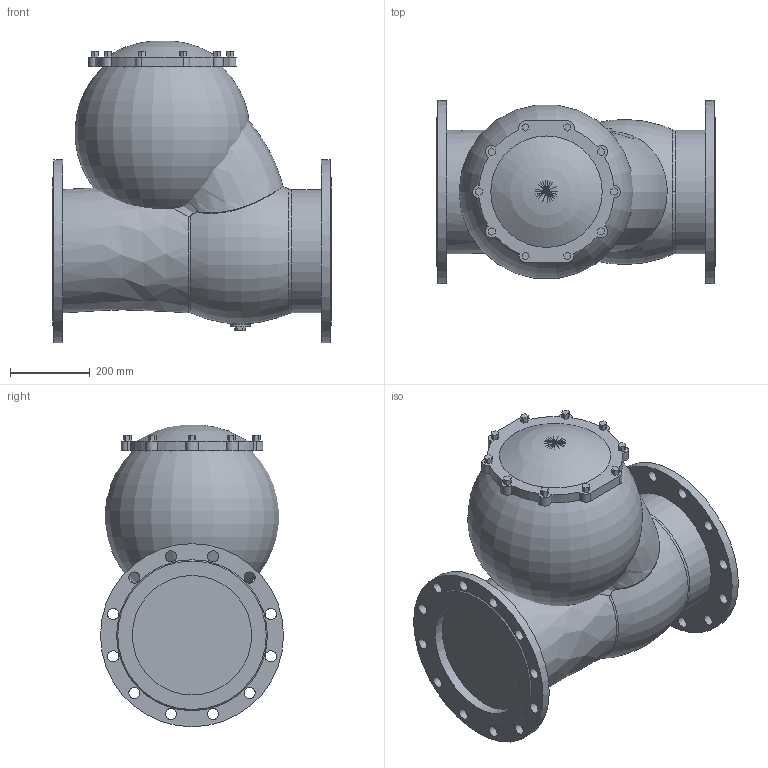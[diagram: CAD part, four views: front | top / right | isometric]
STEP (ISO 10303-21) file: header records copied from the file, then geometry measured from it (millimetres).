
FILE_DESCRIPTION(('STEP AP203'), '1');
FILE_NAME('抔黽鳧 012F.M DN300_PN16', '', ('UNSPECIFIED'), ('UNSPECIFIED'), 'ASCON STEP Converter 1.6', 'ASCON Math Kernel', '');
FILE_SCHEMA(('CONFIG_CONTROL_DESIGN'));
Length unit declared in the file: millimetre
Products named in the file (1): Клапан 012F.M DN300_PN16
Bounding box: 700 x 460 x 757.66 mm (x, y, z)
Volume: 7219435.5 mm3; surface area: 3185589.5 mm2
Topology: 1 solids, 2 shells, 175 faces, 445 edges, 296 vertices
Faces by surface type: plane 105, cylinder 57, bspline 6, torus 5, cone 2
Full cylindrical faces by diameter (mm): 28 x24, 50 x1, 300 x2, 310 x1, 460 x2
Entity records: 9781 total; most frequent: CARTESIAN_POINT 4127, DIRECTION 835, ORIENTED_EDGE 810, EDGE_CURVE 405, VERTEX_POINT 294, AXIS2_PLACEMENT_3D 290, EDGE_LOOP 283, LINE 255
